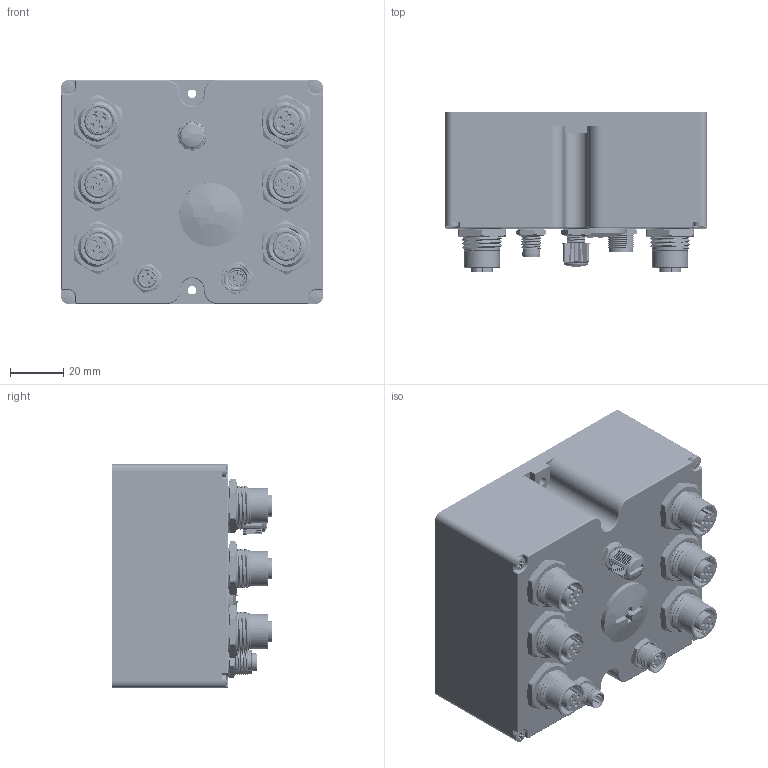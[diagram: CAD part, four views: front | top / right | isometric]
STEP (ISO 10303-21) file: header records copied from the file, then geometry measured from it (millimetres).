
FILE_DESCRIPTION(/* description */ ('Unknown'),/* implementation_level */ '2;1');
FILE_NAME(/* name */ 'SN4D2030R202-0x',/* time_stamp */ '2023-02-17T14:31:02+01:00',/* author */ ('Unknown'),/* organization */ ('Unknown'),/* preprocessor_version */ 'ST-DEVELOPER v16.7',/* originating_system */ 'Solid Edge',/* authorisation */ 'Unknown');
FILE_SCHEMA (('AUTOMOTIVE_DESIGN {1 0 10303 214 3 1 1}'));
Products named in the file (55): Assieme con WMA00; Dissipatore per SN4D con WMA00; Scatola per SN4D con WMA00; M12A-05PFFS-SF8001-STP; MSDS-04PFFP-SF8001-STP; 8-04pmms-sf7001; 8-04PMMS-SF7001; m8-04pffp-sf8001; GAP PAD per SN4D con WMA00; 1415206_tappo IP M20_nero; tcc_M2e5x40; Guarnizione per SN4D con WMA00; cap-wbbmsma1-STP; ROT00-00_2022-12-07; Board; Open CASCADE STEP translator 6.8 5.1.1; J100; CLT-106-02-F-D-BE-P-TR; C-0602BE_pins; CLT-106-02-F-D-BE-P-TR_socket; LED103; HSMF-C16x; HSMF-C16x_glass; LED102; LED101; LED100; SW101; a6rs-162rf; SW100; RN100; User_Library-Array-1206-4Way-Var2-1; User_Library-Array-1206-4Way-Var2-1_Anschl_X_FCsse_1; User_Library-Array-1206-4Way-Var2-1_K_X_F6rper_1; User_Library-Array-1206-4Way-Var2-1_Deckel_1; User_Library-Array-1206-4Way-Var2-1_Beschriftung_1; RN101; R100; cr0603; C100; CAPC1608X09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
Assembly tree (78 placements, depth 5):
  Assieme con WMA00
    Dissipatore per SN4D con WMA00
    Scatola per SN4D con WMA00
    M12A-05PFFS-SF8001-STP  x4
    MSDS-04PFFP-SF8001-STP  x2
    8-04pmms-sf7001  x2
      8-04PMMS-SF7001
    m8-04pffp-sf8001
    GAP PAD per SN4D con WMA00  x2
    1415206_tappo IP M20_nero
    tcc_M2e5x40  x4
    Guarnizione per SN4D con WMA00
    cap-wbbmsma1-STP
    ROT00-00_2022-12-07
      Board
        Open CASCADE STEP translator 6.8 5.1.1
      J100
        CLT-106-02-F-D-BE-P-TR
          C-0602BE_pins
          CLT-106-02-F-D-BE-P-TR_socket
      LED103
        HSMF-C16x
          HSMF-C16x
          HSMF-C16x_glass
      LED102
        HSMF-C16x
          HSMF-C16x
          HSMF-C16x_glass
      LED101
        HSMF-C16x
          HSMF-C16x
          HSMF-C16x_glass
      LED100
        HSMF-C16x
          HSMF-C16x
          HSMF-C16x_glass
      SW101
        a6rs-162rf
      SW100
        a6rs-162rf
      RN100
        User_Library-Array-1206-4Way-Var2-1
          User_Library-Array-1206-4Way-Var2-1_Anschl_X_FCsse_1
          User_Library-Array-1206-4Way-Var2-1_K_X_F6rper_1
          User_Library-Array-1206-4Way-Var2-1_Deckel_1
          User_Library-Array-1206-4Way-Var2-1_Beschriftung_1
      RN101
        User_Library-Array-1206-4Way-Var2-1
          User_Library-Array-1206-4Way-Var2-1_Anschl_X_FCsse_1
          User_Library-Array-1206-4Way-Var2-1_K_X_F6rper_1
          User_Library-Array-1206-4Way-Var2-1_Deckel_1
          User_Library-Array-1206-4Way-Var2-1_Beschriftung_1
      R100
        cr0603
      C100
        CAPC1608X09
      IC100
        User_Library-TSSOP-16-1
      R109
        cr0603
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Bounding box: 98.6 x 60.6 x 84.4 mm (x, y, z)
Volume: 124654.8 mm3; surface area: 101017.6 mm2
Topology: 61 solids, 61 shells, 7525 faces, 20374 edges, 13401 vertices
Faces by surface type: plane 3745, cylinder 1863, bspline 1311, cone 343, torus 141, sphere 122
Full cylindrical faces by diameter (mm): 0.037 x8, 0.6 x1, 0.8 x21, 0.86 x12, 0.889 x5, 1 x30, 1.05 x8, 1.2 x38, 1.4 x8, 1.5 x16, 1.55 x40, 1.6 x8, 1.62 x28, 2 x2, 2.013 x11, 2.5 x4, 2.7 x10, 3.242 x2, 4.4 x2, 4.5 x2, 5 x7, 5.6 x1, 5.75 x6, 5.8 x2, 6.5 x2, 6.9 x3, 7.1 x4, 8.2 x6, 8.6 x2, 8.9 x2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
Entity records: 181074 total; most frequent: CARTESIAN_POINT 70345, ORIENTED_EDGE 20086, DIRECTION 16508, EDGE_CURVE 10043, VERTEX_POINT 6726, AXIS2_PLACEMENT_3D 5617, LINE 5274, VECTOR 5274
